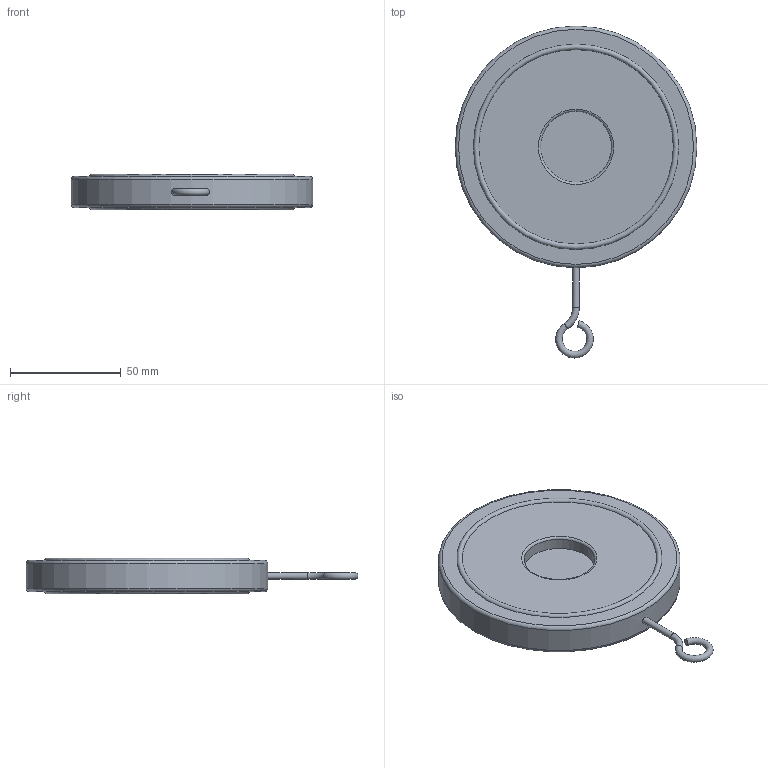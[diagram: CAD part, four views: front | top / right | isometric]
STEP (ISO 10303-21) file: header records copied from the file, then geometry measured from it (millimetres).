
FILE_DESCRIPTION( ( 'Unknown' ), '1' );
FILE_NAME( 'C:/Documents and Settings/Klaus/My Documents/Rootsi BPS 3D, Klaus/BPS 6505 swing check valve/STEP/BPS6505050 swing check valve DN50.stp', 'Unknown', ( 'Unknown' ), ( 'Unknown' ), 'PSStep 10.1', 'Unknown', ' ' );
FILE_SCHEMA( ( 'AUTOMOTIVE_DESIGN { 1 0 10303 214 1 1 1 1 }' ) );
Length unit declared in the file: millimetre
Products named in the file (1): 1
Bounding box: 109 x 149.7 x 16 mm (x, y, z)
Volume: 123194.4 mm3; surface area: 27587.4 mm2
Topology: 1 solids, 1 shells, 223 faces, 544 edges, 358 vertices
Faces by surface type: plane 142, extrusion 53, cylinder 14, torus 11, bspline 2, cone 1
Full cylindrical faces by diameter (mm): 3 x1, 10 x2, 32 x1, 109 x1
Entity records: 10004 total; most frequent: CARTESIAN_POINT 3557, ORIENTED_EDGE 1038, DIRECTION 693, EDGE_CURVE 519, VERTEX_POINT 353, B_SPLINE_CURVE_WITH_KNOTS 326, EDGE_LOOP 278, FACE_OUTER_BOUND 243
